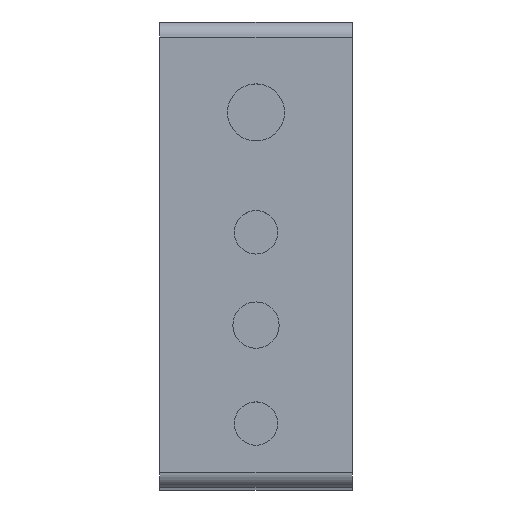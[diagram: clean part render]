
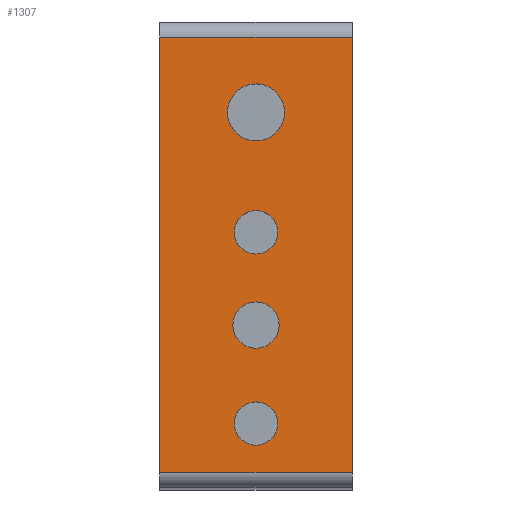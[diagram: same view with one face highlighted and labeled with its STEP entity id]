
A CAD part, top view. The second image highlights one B-rep face of the part: STEP entity #1307.
In plain terms, the highlighted planar face has unit normal (0, 0, 1).
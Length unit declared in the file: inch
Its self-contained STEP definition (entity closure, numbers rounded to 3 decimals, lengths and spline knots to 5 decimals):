
#125 = CARTESIAN_POINT ( 'NONE',  ( 0.32906, -0.74685, 3.5595 ) ) ;
#130 = CIRCLE ( 'NONE', #3338, 0.09594 ) ;
#149 = CARTESIAN_POINT ( 'NONE',  ( 0., 0.9622, 3.5595 ) ) ;
#205 = DIRECTION ( 'NONE',  ( 1., 0., 0. ) ) ;
#217 = CARTESIAN_POINT ( 'NONE',  ( 0.32264, -0.31123, 3.5595 ) ) ;
#254 = ORIENTED_EDGE ( 'NONE', *, *, #1579, .F. ) ;
#294 = LINE ( 'NONE', #2337, #3387 ) ;
#320 = CARTESIAN_POINT ( 'NONE',  ( 0.85, 0.9622, 3.5595 ) ) ;
#351 = VERTEX_POINT ( 'NONE', #217 ) ;
#356 = CARTESIAN_POINT ( 'NONE',  ( 0.52736, -0.31123, 3.5595 ) ) ;
#489 = EDGE_CURVE ( 'NONE', #2395, #3305, #130, .T. ) ;
#588 = EDGE_LOOP ( 'NONE', ( #1079, #1157, #2303, #845 ) ) ;
#594 = CIRCLE ( 'NONE', #2850, 0.12619 ) ;
#616 = CARTESIAN_POINT ( 'NONE',  ( 0.425, 0.62913, 3.5595 ) ) ;
#620 = DIRECTION ( 'NONE',  ( -1., 0., 0. ) ) ;
#621 = DIRECTION ( 'NONE',  ( 0., 0., 1. ) ) ;
#663 = DIRECTION ( 'NONE',  ( 0., 0., -1. ) ) ;
#770 = FACE_BOUND ( 'NONE', #2823, .T. ) ;
#775 = DIRECTION ( 'NONE',  ( 1., 0., 0. ) ) ;
#805 = CARTESIAN_POINT ( 'NONE',  ( 0.52094, -0.74685, 3.5595 ) ) ;
#845 = ORIENTED_EDGE ( 'NONE', *, *, #3393, .T. ) ;
#880 = EDGE_CURVE ( 'NONE', #1204, #2397, #2410, .T. ) ;
#916 = DIRECTION ( 'NONE',  ( 0., 0., 1. ) ) ;
#950 = VECTOR ( 'NONE', #2453, 39.37008 ) ;
#1071 = ORIENTED_EDGE ( 'NONE', *, *, #2106, .F. ) ;
#1079 = ORIENTED_EDGE ( 'NONE', *, *, #3572, .F. ) ;
#1081 = CIRCLE ( 'NONE', #2542, 0.10236 ) ;
#1102 = CIRCLE ( 'NONE', #1913, 0.10236 ) ;
#1157 = ORIENTED_EDGE ( 'NONE', *, *, #1580, .T. ) ;
#1186 = EDGE_CURVE ( 'NONE', #3294, #1499, #3018, .T. ) ;
#1192 = CARTESIAN_POINT ( 'NONE',  ( 0.425, -0.31123, 3.5595 ) ) ;
#1204 = VERTEX_POINT ( 'NONE', #125 ) ;
#1206 = CARTESIAN_POINT ( 'NONE',  ( 0.425, 0.09898, 3.5595 ) ) ;
#1214 = DIRECTION ( 'NONE',  ( 1., 0., 0. ) ) ;
#1220 = DIRECTION ( 'NONE',  ( 1., 0., 0. ) ) ;
#1243 = CARTESIAN_POINT ( 'NONE',  ( 0.85, -0.9622, 3.5595 ) ) ;
#1305 = ORIENTED_EDGE ( 'NONE', *, *, #3112, .F. ) ;
#1307 = ADVANCED_FACE ( 'NONE', ( #3105, #2119, #1318, #770, #1367 ), #3322, .F. ) ;
#1318 = FACE_BOUND ( 'NONE', #1988, .T. ) ;
#1363 = CARTESIAN_POINT ( 'NONE',  ( 0.425, -0.74685, 3.5595 ) ) ;
#1367 = FACE_BOUND ( 'NONE', #1875, .T. ) ;
#1375 = LINE ( 'NONE', #2151, #950 ) ;
#1378 = CARTESIAN_POINT ( 'NONE',  ( 0.425, -0.74685, 3.5595 ) ) ;
#1388 = VERTEX_POINT ( 'NONE', #149 ) ;
#1465 = LINE ( 'NONE', #1243, #3117 ) ;
#1467 = EDGE_CURVE ( 'NONE', #2397, #1204, #3563, .T. ) ;
#1499 = VERTEX_POINT ( 'NONE', #2522 ) ;
#1579 = EDGE_CURVE ( 'NONE', #351, #2931, #1081, .T. ) ;
#1580 = EDGE_CURVE ( 'NONE', #2621, #1388, #294, .T. ) ;
#1646 = EDGE_CURVE ( 'NONE', #1388, #2238, #2344, .T. ) ;
#1821 = CARTESIAN_POINT ( 'NONE',  ( 0., 1.02913, 3.5595 ) ) ;
#1875 = EDGE_LOOP ( 'NONE', ( #2517, #2864 ) ) ;
#1913 = AXIS2_PLACEMENT_3D ( 'NONE', #3475, #3740, #2004 ) ;
#1926 = DIRECTION ( 'NONE',  ( 0., 0., 1. ) ) ;
#1968 = CARTESIAN_POINT ( 'NONE',  ( 0.85, -0.9622, 3.5595 ) ) ;
#1988 = EDGE_LOOP ( 'NONE', ( #2286, #2971 ) ) ;
#2003 = AXIS2_PLACEMENT_3D ( 'NONE', #1378, #2832, #775 ) ;
#2004 = DIRECTION ( 'NONE',  ( 1., 0., 0. ) ) ;
#2061 = AXIS2_PLACEMENT_3D ( 'NONE', #3335, #3347, #2998 ) ;
#2106 = EDGE_CURVE ( 'NONE', #2931, #351, #1102, .T. ) ;
#2119 = FACE_BOUND ( 'NONE', #2581, .T. ) ;
#2145 = ORIENTED_EDGE ( 'NONE', *, *, #1186, .F. ) ;
#2151 = CARTESIAN_POINT ( 'NONE',  ( 0.85, 1.02913, 3.5595 ) ) ;
#2236 = CARTESIAN_POINT ( 'NONE',  ( 0.32906, 0.09898, 3.5595 ) ) ;
#2238 = VERTEX_POINT ( 'NONE', #3155 ) ;
#2286 = ORIENTED_EDGE ( 'NONE', *, *, #489, .F. ) ;
#2303 = ORIENTED_EDGE ( 'NONE', *, *, #1646, .T. ) ;
#2337 = CARTESIAN_POINT ( 'NONE',  ( 0.85, 0.9622, 3.5595 ) ) ;
#2344 = LINE ( 'NONE', #1821, #3427 ) ;
#2395 = VERTEX_POINT ( 'NONE', #2848 ) ;
#2397 = VERTEX_POINT ( 'NONE', #805 ) ;
#2410 = CIRCLE ( 'NONE', #2003, 0.09594 ) ;
#2453 = DIRECTION ( 'NONE',  ( 0., -1., 0. ) ) ;
#2517 = ORIENTED_EDGE ( 'NONE', *, *, #1467, .F. ) ;
#2522 = CARTESIAN_POINT ( 'NONE',  ( 0.29881, 0.62913, 3.5595 ) ) ;
#2542 = AXIS2_PLACEMENT_3D ( 'NONE', #1192, #3215, #3497 ) ;
#2581 = EDGE_LOOP ( 'NONE', ( #1071, #254 ) ) ;
#2587 = CIRCLE ( 'NONE', #2061, 0.09594 ) ;
#2621 = VERTEX_POINT ( 'NONE', #320 ) ;
#2727 = DIRECTION ( 'NONE',  ( 0., -1., 0. ) ) ;
#2735 = DIRECTION ( 'NONE',  ( -1., 0., 0. ) ) ;
#2780 = AXIS2_PLACEMENT_3D ( 'NONE', #3003, #663, #2735 ) ;
#2823 = EDGE_LOOP ( 'NONE', ( #2145, #1305 ) ) ;
#2832 = DIRECTION ( 'NONE',  ( 0., 0., 1. ) ) ;
#2848 = CARTESIAN_POINT ( 'NONE',  ( 0.52094, 0.09898, 3.5595 ) ) ;
#2850 = AXIS2_PLACEMENT_3D ( 'NONE', #3038, #3352, #3065 ) ;
#2864 = ORIENTED_EDGE ( 'NONE', *, *, #880, .F. ) ;
#2931 = VERTEX_POINT ( 'NONE', #356 ) ;
#2971 = ORIENTED_EDGE ( 'NONE', *, *, #3542, .F. ) ;
#2998 = DIRECTION ( 'NONE',  ( 1., 0., 0. ) ) ;
#3003 = CARTESIAN_POINT ( 'NONE',  ( 0.85, 1.02913, 3.5595 ) ) ;
#3018 = CIRCLE ( 'NONE', #3115, 0.12619 ) ;
#3038 = CARTESIAN_POINT ( 'NONE',  ( 0.425, 0.62913, 3.5595 ) ) ;
#3065 = DIRECTION ( 'NONE',  ( 1., 0., 0. ) ) ;
#3105 = FACE_OUTER_BOUND ( 'NONE', #588, .T. ) ;
#3112 = EDGE_CURVE ( 'NONE', #1499, #3294, #594, .T. ) ;
#3115 = AXIS2_PLACEMENT_3D ( 'NONE', #616, #916, #1214 ) ;
#3117 = VECTOR ( 'NONE', #3561, 39.37008 ) ;
#3155 = CARTESIAN_POINT ( 'NONE',  ( 0., -0.9622, 3.5595 ) ) ;
#3174 = AXIS2_PLACEMENT_3D ( 'NONE', #1363, #1926, #205 ) ;
#3215 = DIRECTION ( 'NONE',  ( 0., 0., 1. ) ) ;
#3294 = VERTEX_POINT ( 'NONE', #3382 ) ;
#3305 = VERTEX_POINT ( 'NONE', #2236 ) ;
#3322 = PLANE ( 'NONE',  #2780 ) ;
#3335 = CARTESIAN_POINT ( 'NONE',  ( 0.425, 0.09898, 3.5595 ) ) ;
#3338 = AXIS2_PLACEMENT_3D ( 'NONE', #1206, #621, #1220 ) ;
#3347 = DIRECTION ( 'NONE',  ( 0., 0., 1. ) ) ;
#3352 = DIRECTION ( 'NONE',  ( 0., 0., 1. ) ) ;
#3382 = CARTESIAN_POINT ( 'NONE',  ( 0.55119, 0.62913, 3.5595 ) ) ;
#3387 = VECTOR ( 'NONE', #620, 39.37008 ) ;
#3393 = EDGE_CURVE ( 'NONE', #2238, #3685, #1465, .T. ) ;
#3427 = VECTOR ( 'NONE', #2727, 39.37008 ) ;
#3475 = CARTESIAN_POINT ( 'NONE',  ( 0.425, -0.31123, 3.5595 ) ) ;
#3497 = DIRECTION ( 'NONE',  ( 1., 0., 0. ) ) ;
#3542 = EDGE_CURVE ( 'NONE', #3305, #2395, #2587, .T. ) ;
#3561 = DIRECTION ( 'NONE',  ( 1., 0., 0. ) ) ;
#3563 = CIRCLE ( 'NONE', #3174, 0.09594 ) ;
#3572 = EDGE_CURVE ( 'NONE', #2621, #3685, #1375, .T. ) ;
#3685 = VERTEX_POINT ( 'NONE', #1968 ) ;
#3740 = DIRECTION ( 'NONE',  ( 0., 0., 1. ) ) ;
